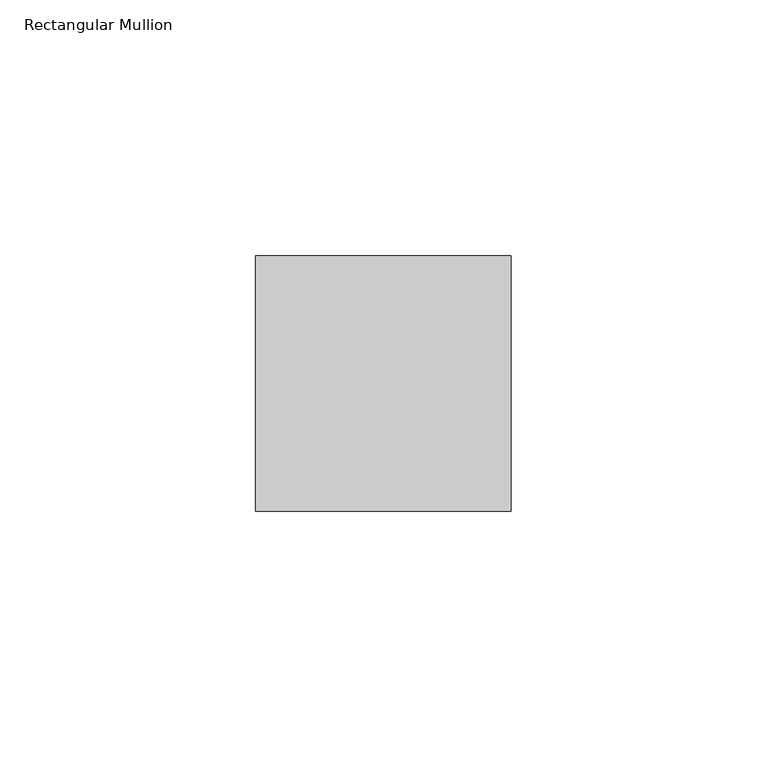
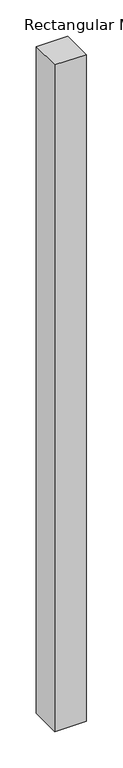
"""IFC4 building model written with IfcOpenShell, lengths in millimetres: member geometry, Rectangular Mullion : Mullion_Curtain Wall_Generic Showcase_50x50mm."""

from ifc_helpers import new_model, si_unit, frame, origin, place, context, project, spatial, polyline, outline, extrude, source, transform, mapped, element, save


def rectangular_mullion_08edc9b5(model_context):
    return source(origin(), model_context, "Body", "SweptSolid", [
        extrude(outline(polyline([(0.0, 50.0), (0.0, 0.0), (-50.0, 0.0), (-50.0, 50.0), (0.0, 50.0)])), frame((0.0, 0.0, -1116.6666667), z_axis=(0.0, 0.0, 1.0), x_axis=(1.0, 0.0, 0.0)), (0.0, 0.0, 1.0), 1116.6666667),
    ])


if __name__ == "__main__":
    model = new_model("IFC4")
    model_context = context("Model", 3, world=origin())
    ifc_project = project(units=[si_unit("LENGTHUNIT", "METRE", prefix="MILLI")], contexts=[model_context])
    site = spatial("IfcSite", under=ifc_project)
    building = spatial("IfcBuilding", under=site)
    placement = place(None, origin())
    rectangular_mullion_shape = rectangular_mullion_08edc9b5(model_context)
    element("IfcMember", 1, ObjectType="Rectangular Mullion : Mullion_Curtain Wall_Generic Showcase_50x50mm", at=placement, inside=building, context=model_context, shape_type="MappedRepresentation", body=[
        mapped(rectangular_mullion_shape, transform((0.0, 0.0, 0.0), x_axis=(1.0, 0.0, 0.0), y_axis=(0.0, 1.0, 0.0), z_axis=(0.0, 0.0, 1.0))),
    ])
    save(model, "model.ifc")
